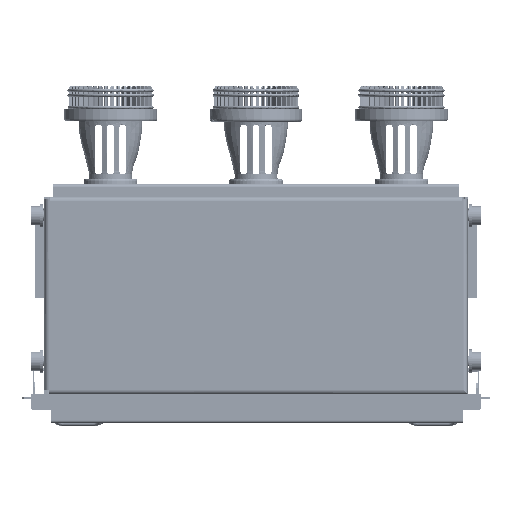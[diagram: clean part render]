
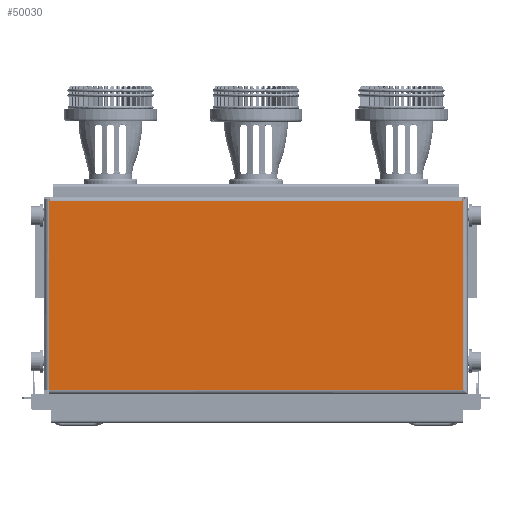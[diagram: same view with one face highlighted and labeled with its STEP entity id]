
A CAD part, top view. The second image highlights one B-rep face of the part: STEP entity #50030.
In plain terms, the highlighted planar face has unit normal (0, 0, 1).
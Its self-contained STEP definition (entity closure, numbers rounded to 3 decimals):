
#50030=ADVANCED_FACE('',(#151359),#151361,.F.);
#151359=FACE_BOUND('',#151360,.T.);
#151360=EDGE_LOOP('',(#238117,#238118,#238119,#238120,#238121,#238122,#238123,#238124));
#151361=PLANE('',#151362);
#151362=AXIS2_PLACEMENT_3D('',#151363,#151364,#151365);
#151363=CARTESIAN_POINT('',(320.881,-121.872,1037.));
#151364=DIRECTION('',(0.,0.,-1.));
#151365=DIRECTION('',(-1.,0.,0.));
#238117=ORIENTED_EDGE('',*,*,#320246,.T.);
#238118=ORIENTED_EDGE('',*,*,#320257,.F.);
#238119=ORIENTED_EDGE('',*,*,#320272,.T.);
#238120=ORIENTED_EDGE('',*,*,#320273,.T.);
#238121=ORIENTED_EDGE('',*,*,#320274,.T.);
#238122=ORIENTED_EDGE('',*,*,#320275,.T.);
#238123=ORIENTED_EDGE('',*,*,#320276,.T.);
#238124=ORIENTED_EDGE('',*,*,#320277,.F.);
#320246=EDGE_CURVE('',#364569,#364567,#364570,.F.);
#320257=EDGE_CURVE('',#364585,#364567,#364587,.T.);
#320272=EDGE_CURVE('',#364585,#364610,#364611,.T.);
#320273=EDGE_CURVE('',#364610,#364612,#364613,.T.);
#320274=EDGE_CURVE('',#364612,#364614,#364615,.F.);
#320275=EDGE_CURVE('',#364614,#364616,#364617,.T.);
#320276=EDGE_CURVE('',#364616,#364618,#364619,.T.);
#320277=EDGE_CURVE('',#364569,#364618,#364620,.T.);
#364567=VERTEX_POINT('',#577199);
#364569=VERTEX_POINT('',#577204);
#364570=LINE('',#577205,#577206);
#364585=VERTEX_POINT('',#577248);
#364587=LINE('',#577253,#577254);
#364610=VERTEX_POINT('',#577310);
#364611=LINE('',#577311,#577312);
#364612=VERTEX_POINT('',#577314);
#364613=LINE('',#577315,#577316);
#364614=VERTEX_POINT('',#577318);
#364615=LINE('',#577319,#577320);
#364616=VERTEX_POINT('',#577322);
#364617=LINE('',#577323,#577324);
#364618=VERTEX_POINT('',#577326);
#364619=LINE('',#577327,#577328);
#364620=LINE('',#577330,#577331);
#577199=CARTESIAN_POINT('',(315.881,-124.872,1037.));
#577204=CARTESIAN_POINT('',(-466.119,-124.872,1037.));
#577205=CARTESIAN_POINT('',(315.881,-124.872,1037.));
#577206=VECTOR('',#577207,1.);
#577207=DIRECTION('',(-1.,0.,0.));
#577248=CARTESIAN_POINT('',(315.881,235.128,1037.));
#577253=CARTESIAN_POINT('',(315.881,235.128,1037.));
#577254=VECTOR('',#577255,1.);
#577255=DIRECTION('',(0.,-1.,0.));
#577310=CARTESIAN_POINT('',(314.881,235.128,1037.));
#577311=CARTESIAN_POINT('',(315.881,235.128,1037.));
#577312=VECTOR('',#577313,1.);
#577313=DIRECTION('',(-1.,0.,0.));
#577314=CARTESIAN_POINT('',(314.881,231.128,1037.));
#577315=CARTESIAN_POINT('',(314.881,235.128,1037.));
#577316=VECTOR('',#577317,1.);
#577317=DIRECTION('',(0.,-1.,0.));
#577318=CARTESIAN_POINT('',(-465.119,231.128,1037.));
#577319=CARTESIAN_POINT('',(-465.119,231.128,1037.));
#577320=VECTOR('',#577321,1.);
#577321=DIRECTION('',(1.,0.,0.));
#577322=CARTESIAN_POINT('',(-465.119,235.128,1037.));
#577323=CARTESIAN_POINT('',(-465.119,231.128,1037.));
#577324=VECTOR('',#577325,1.);
#577325=DIRECTION('',(0.,1.,0.));
#577326=CARTESIAN_POINT('',(-466.119,235.128,1037.));
#577327=CARTESIAN_POINT('',(-465.119,235.128,1037.));
#577328=VECTOR('',#577329,1.);
#577329=DIRECTION('',(-1.,0.,0.));
#577330=CARTESIAN_POINT('',(-466.119,-124.872,1037.));
#577331=VECTOR('',#577332,1.);
#577332=DIRECTION('',(0.,1.,0.));
